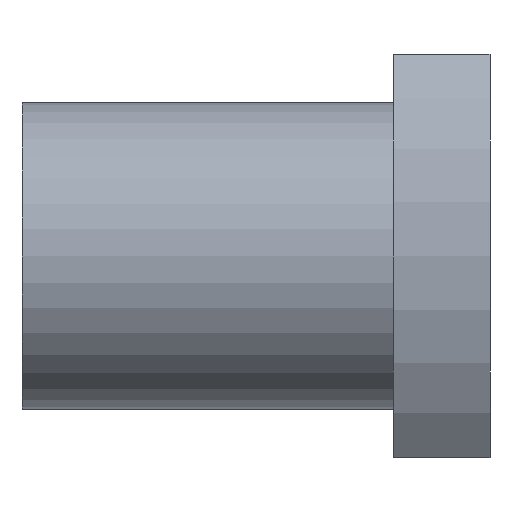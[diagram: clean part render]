
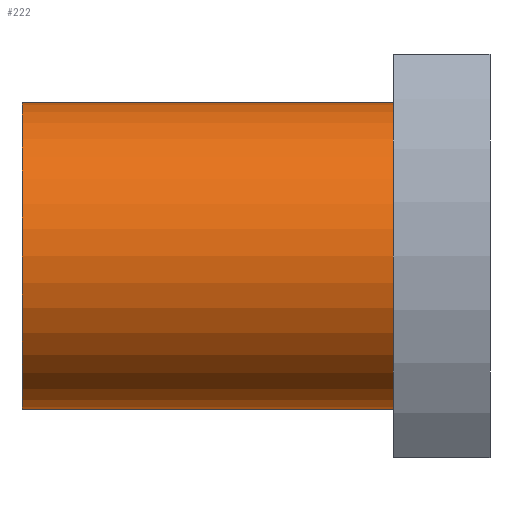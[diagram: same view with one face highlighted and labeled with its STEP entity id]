
A CAD part, front view. The second image highlights one B-rep face of the part: STEP entity #222.
In plain terms, the highlighted cylindrical face has radius 9.5 mm (diameter 19 mm), a full revolution.
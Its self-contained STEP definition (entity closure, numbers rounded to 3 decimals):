
#51=ORIENTED_EDGE('',*,*,#99,.T.);
#52=ORIENTED_EDGE('',*,*,#100,.T.);
#99=EDGE_CURVE('',#123,#123,#141,.T.);
#100=EDGE_CURVE('',#124,#124,#142,.F.);
#123=VERTEX_POINT('',#372);
#124=VERTEX_POINT('',#374);
#141=CIRCLE('',#257,9.5);
#142=CIRCLE('',#258,9.5);
#156=EDGE_LOOP('',(#51));
#157=EDGE_LOOP('',(#52));
#186=FACE_BOUND('',#156,.T.);
#187=FACE_BOUND('',#157,.T.);
#212=CYLINDRICAL_SURFACE('',#256,9.5);
#222=ADVANCED_FACE('',(#186,#187),#212,.T.);
#256=AXIS2_PLACEMENT_3D('',#370,#300,#301);
#257=AXIS2_PLACEMENT_3D('',#371,#302,#303);
#258=AXIS2_PLACEMENT_3D('',#373,#304,#305);
#300=DIRECTION('',(1.,0.,0.));
#301=DIRECTION('',(0.,0.,-1.));
#302=DIRECTION('',(1.,0.,0.));
#303=DIRECTION('',(0.,0.,-1.));
#304=DIRECTION('',(1.,0.,0.));
#305=DIRECTION('',(0.,0.,-1.));
#370=CARTESIAN_POINT('',(-14.5,0.,0.));
#371=CARTESIAN_POINT('',(-14.5,0.,0.));
#372=CARTESIAN_POINT('',(-14.5,0.,-9.5));
#373=CARTESIAN_POINT('',(8.5,0.,0.));
#374=CARTESIAN_POINT('',(8.5,0.,-9.5));
